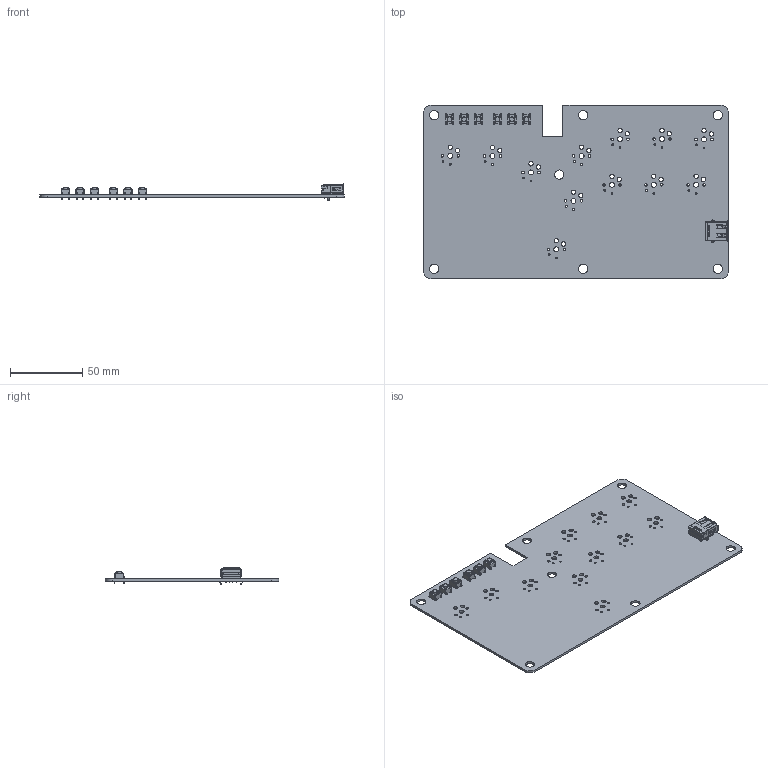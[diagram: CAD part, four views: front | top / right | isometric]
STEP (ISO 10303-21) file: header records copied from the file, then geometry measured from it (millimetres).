
FILE_DESCRIPTION(('KiCad electronic assembly'),'2;1');
FILE_NAME('Flatbox-rev5-v2.step','2024-06-08T10:45:48',('Pcbnew'),( 'Kicad'),'Open CASCADE STEP processor 7.7','KiCad to STEP converter' ,'Unknown');
FILE_SCHEMA(('AUTOMOTIVE_DESIGN { 1 0 10303 214 1 1 1 1 }'));
Length unit declared in the file: millimetre
Products named in the file (6): Flatbox-rev5-v2 1; SW_PUSH_6mm_H5mm; SW_PUSH_6mm_h5mm; USB_A_Molex_67643_Horizontal; Flatbox-rev5_PCB
Assembly tree (10 placements, depth 3):
  Flatbox-rev5-v2 1
    SW_PUSH_6mm_H5mm  x6
      SW_PUSH_6mm_h5mm
    USB_A_Molex_67643_Horizontal
      USB_A_Molex_67643_Horizontal
    Flatbox-rev5_PCB
Bounding box: 210 x 120 x 11.53 mm (x, y, z)
Volume: 40547.4 mm3; surface area: 53969.1 mm2
Topology: 17 solids, 17 shells, 1324 faces, 3355 edges, 2096 vertices
Faces by surface type: plane 759, cylinder 439, bspline 120, torus 6
Full cylindrical faces by diameter (mm): 0.95 x4, 1 x24, 1.1 x24, 1.27 x24, 1.702 x24, 2.3 x2, 3 x24, 3.429 x12, 3.5 x6, 6.4 x7
Entity records: 31054 total; most frequent: CARTESIAN_POINT 8037, ORIENTED_EDGE 3940, DIRECTION 3264, EDGE_CURVE 1970, VERTEX_POINT 1201, AXIS2_PLACEMENT_3D 1156, FACE_BOUND 1065, EDGE_LOOP 1065
